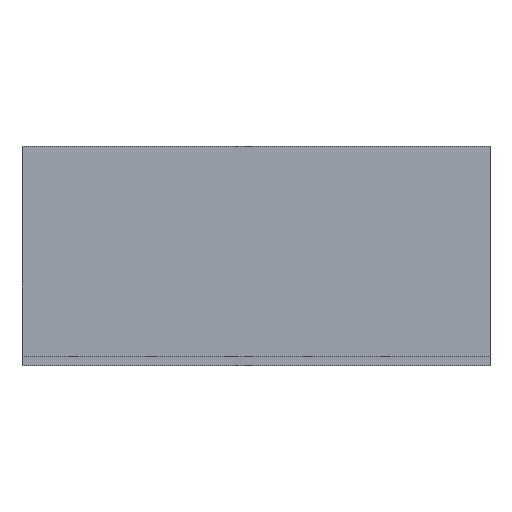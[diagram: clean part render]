
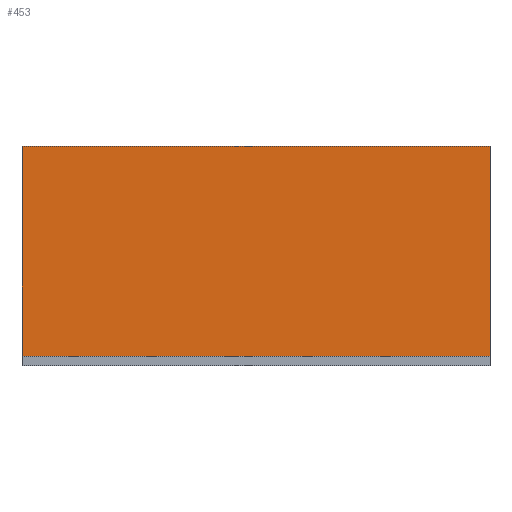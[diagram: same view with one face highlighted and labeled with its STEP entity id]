
A CAD part, front view. The second image highlights one B-rep face of the part: STEP entity #453.
In plain terms, the highlighted planar face has unit normal (0, -1, 0).
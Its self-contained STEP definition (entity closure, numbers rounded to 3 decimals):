
#21=LINE('',#771,#39);
#27=LINE('',#782,#45);
#28=LINE('',#785,#46);
#29=LINE('',#786,#47);
#39=VECTOR('',#647,56.5);
#45=VECTOR('',#657,126.);
#46=VECTOR('',#660,56.5);
#47=VECTOR('',#661,126.);
#55=PLANE('',#519);
#133=FACE_OUTER_BOUND('',#190,.T.);
#190=EDGE_LOOP('',(#382,#383,#384,#385));
#262=VERTEX_POINT('',#768);
#263=VERTEX_POINT('',#770);
#266=VERTEX_POINT('',#780);
#267=VERTEX_POINT('',#784);
#303=EDGE_CURVE('',#263,#262,#21,.T.);
#309=EDGE_CURVE('',#262,#266,#27,.T.);
#310=EDGE_CURVE('',#266,#267,#28,.T.);
#311=EDGE_CURVE('',#267,#263,#29,.T.);
#382=ORIENTED_EDGE('',*,*,#309,.T.);
#383=ORIENTED_EDGE('',*,*,#310,.T.);
#384=ORIENTED_EDGE('',*,*,#311,.T.);
#385=ORIENTED_EDGE('',*,*,#303,.T.);
#453=ADVANCED_FACE('',(#133),#55,.T.);
#519=AXIS2_PLACEMENT_3D('',#783,#658,#659);
#647=DIRECTION('',(0.,0.,-1.));
#657=DIRECTION('',(1.,0.,0.));
#658=DIRECTION('center_axis',(0.,-1.,0.));
#659=DIRECTION('ref_axis',(0.,0.,-1.));
#660=DIRECTION('',(0.,0.,1.));
#661=DIRECTION('',(-1.,0.,0.));
#768=CARTESIAN_POINT('',(-63.,-6.,-26.75));
#770=CARTESIAN_POINT('',(-63.,-6.,29.75));
#771=CARTESIAN_POINT('',(-63.,-6.,-29.75));
#780=CARTESIAN_POINT('',(63.,-6.,-26.75));
#782=CARTESIAN_POINT('',(5.77,-6.,-26.75));
#783=CARTESIAN_POINT('Origin',(11.539,-6.,11.539));
#784=CARTESIAN_POINT('',(63.,-6.,29.75));
#785=CARTESIAN_POINT('',(63.,-6.,29.75));
#786=CARTESIAN_POINT('',(-63.,-6.,29.75));
